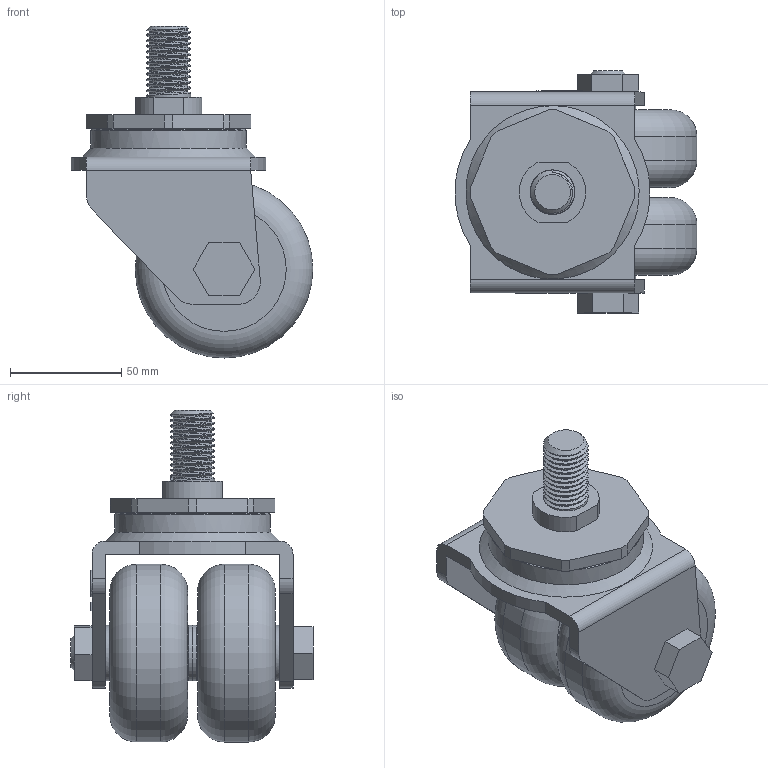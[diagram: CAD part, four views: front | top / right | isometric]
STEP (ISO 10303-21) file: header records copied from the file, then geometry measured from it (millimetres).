
FILE_DESCRIPTION(/* description */ (''),/* implementation_level */ '2;1');
FILE_NAME(/* name */ '90A01_3_R.stp',/* time_stamp */ '2022-10-07T12:08:12+08:00',/* author */ (''),/* organization */ (''),/* preprocessor_version */ 'ST-DEVELOPER v14',/* originating_system */ 'SIEMENS PLM Software NX 8.0',/* authorisation */ '');
FILE_SCHEMA (('AUTOMOTIVE_DESIGN { 1 0 10303 214 3 1 1 1 }'));
Length unit declared in the file: millimetre
Products named in the file (1): 90A01_3_R
Bounding box: 108.85 x 109 x 149.5 mm (x, y, z)
Volume: 500860.8 mm3; surface area: 95383.9 mm2
Topology: 1 solids, 8 shells, 370 faces, 940 edges, 622 vertices
Faces by surface type: plane 244, cylinder 69, bspline 28, cone 17, torus 7, revolution 5
Full cylindrical faces by diameter (mm): 12 x2, 16 x2, 16.3 x2, 17.142 x1, 20 x6, 20.1 x1, 22 x1, 24.608 x1, 25 x4, 28 x1, 40 x1, 60 x2, 62.5 x1, 70 x1, 80 x2
Entity records: 14455 total; most frequent: CARTESIAN_POINT 6397, ORIENTED_EDGE 1724, DIRECTION 1382, EDGE_CURVE 862, VERTEX_POINT 603, AXIS2_PLACEMENT_3D 501, EDGE_LOOP 481, LINE 375
